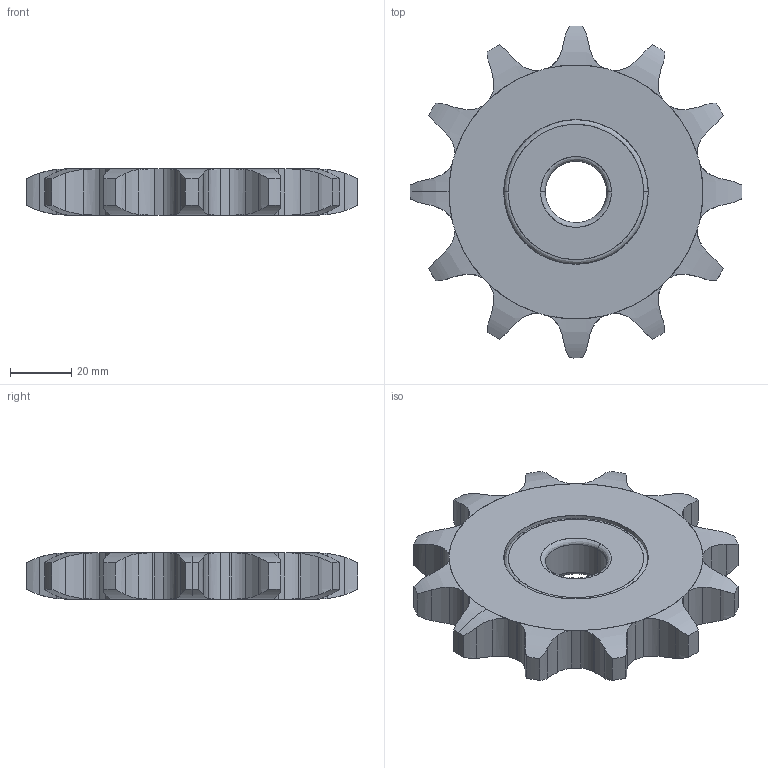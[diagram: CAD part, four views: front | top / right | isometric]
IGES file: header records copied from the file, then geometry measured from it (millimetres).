
Start section: SolidWorks IGES file using analytic representation for surfaces
Global section: file name: X:\11_SW2020-Inv2020\00_全2021-11新製品まで\s\SIS812\sis812.IGS; native system: SolidWorks 2020; preprocessor: SolidWorks 2020; author: ImaoCorp; date: 211025.131703; units: millimetre
Bounding box: 107.99 x 107.99 x 15 mm (x, y, z)
Surface area: 20672.2 mm2 (no closed solid volume)
Topology: 0 solids, 0 shells, 145 faces, 1588 edges, 1588 vertices
Faces by surface type: revolution 107, bspline 38
